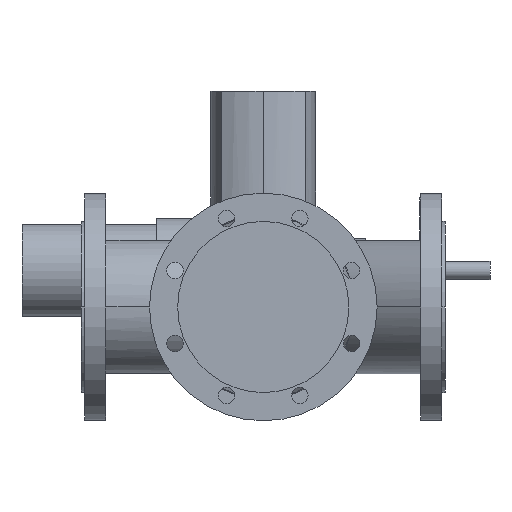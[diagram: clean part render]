
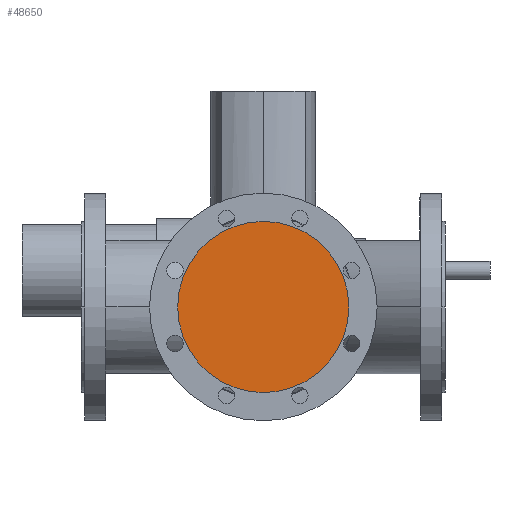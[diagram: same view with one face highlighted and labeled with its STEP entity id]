
A CAD part, front view. The second image highlights one B-rep face of the part: STEP entity #48650.
In plain terms, the highlighted planar face has unit normal (0, -1, 0).
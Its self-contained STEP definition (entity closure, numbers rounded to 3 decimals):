
#5290=CARTESIAN_POINT('',(294.,-200.,0.));
#5300=VERTEX_POINT('',#5290);
#5460=CARTESIAN_POINT('',(106.,-200.,0.));
#5470=VERTEX_POINT('',#5460);
#5500=CARTESIAN_POINT('',(200.,-200.,0.));
#5510=DIRECTION('',(0.,1.,0.));
#5520=DIRECTION('',(1.,0.,0.));
#5530=AXIS2_PLACEMENT_3D('',#5500,#5510,#5520);
#5540=CIRCLE('',#5530,94.);
#5550=EDGE_CURVE('',#5300,#5470,#5540,.T.);
#48550=CARTESIAN_POINT('',(247.,-200.,0.));
#48560=DIRECTION('',(0.,-1.,0.));
#48570=DIRECTION('',(-1.,0.,0.));
#48580=AXIS2_PLACEMENT_3D('',#48550,#48560,#48570);
#48590=PLANE('',#48580);
#48600=EDGE_CURVE('',#5470,#5300,#5540,.T.);
#48610=ORIENTED_EDGE('',*,*,#48600,.F.);
#48620=ORIENTED_EDGE('',*,*,#5550,.F.);
#48630=EDGE_LOOP('',(#48620,#48610));
#48640=FACE_OUTER_BOUND('',#48630,.T.);
#48650=ADVANCED_FACE('',(#48640),#48590,.T.);
